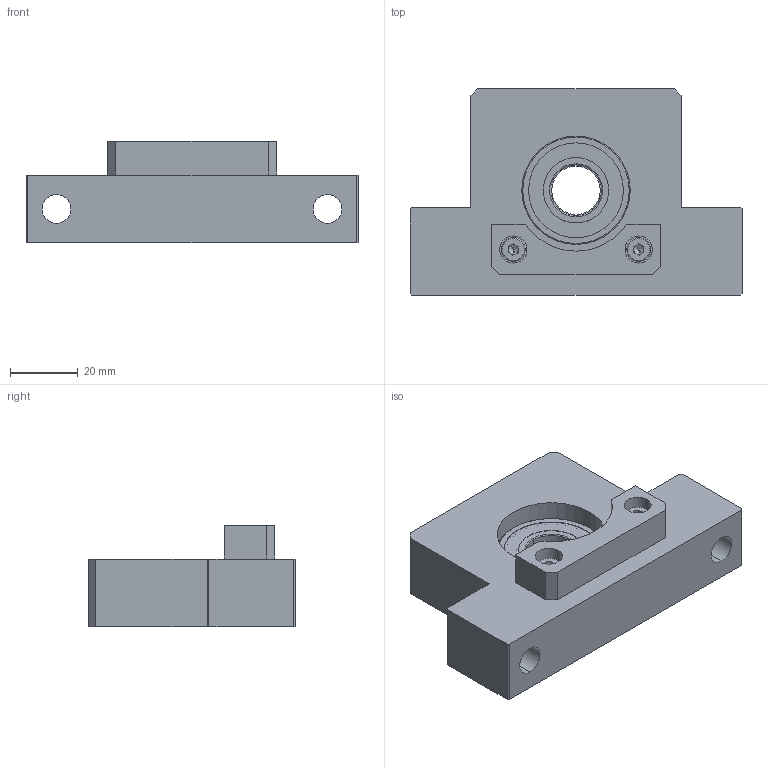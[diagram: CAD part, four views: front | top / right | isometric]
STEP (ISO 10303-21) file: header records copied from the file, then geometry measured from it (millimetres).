
FILE_DESCRIPTION (( 'STEP AP214' ), '1' );
FILE_NAME ('F-SBU-15.60-D.STEP', '2023-04-10T08:54:06', ( '' ), ( '' ), 'SwSTEP 2.0', 'SolidWorks 2021', '' );
FILE_SCHEMA (( 'AUTOMOTIVE_DESIGN' ));
Length unit declared in the file: millimetre
Products named in the file (11): 6002ZZ Outer ring; F-SBU-15.60-D BODY; 4-10; 6002ZZ Inner ring; F-SBU-15.60-D; 6002ZZ Shield1; STWN15; 6002ZZ Shield2; DAMPER; 6002ZZ Ball; 6002ZZ
Assembly tree (23 placements, depth 3):
  F-SBU-15.60-D
    F-SBU-15.60-D BODY
    STWN15
    6002ZZ
      6002ZZ Shield2
      6002ZZ Ball  x13
      6002ZZ Inner ring
      6002ZZ Shield1
      6002ZZ Outer ring
    DAMPER
    4-10  x2
Bounding box: 98 x 61 x 30 mm (x, y, z)
Volume: 84664.2 mm3; surface area: 26936.4 mm2
Topology: 22 solids, 22 shells, 207 faces, 502 edges, 317 vertices
Faces by surface type: plane 77, cylinder 66, sphere 26, cone 20, torus 18
Entity records: 4997 total; most frequent: DIRECTION 883, CARTESIAN_POINT 753, ORIENTED_EDGE 698, AXIS2_PLACEMENT_3D 351, EDGE_CURVE 349, VERTEX_POINT 221, EDGE_LOOP 188, LINE 181
